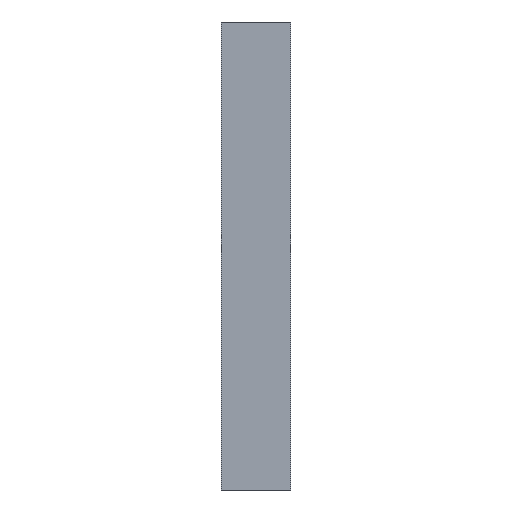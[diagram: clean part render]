
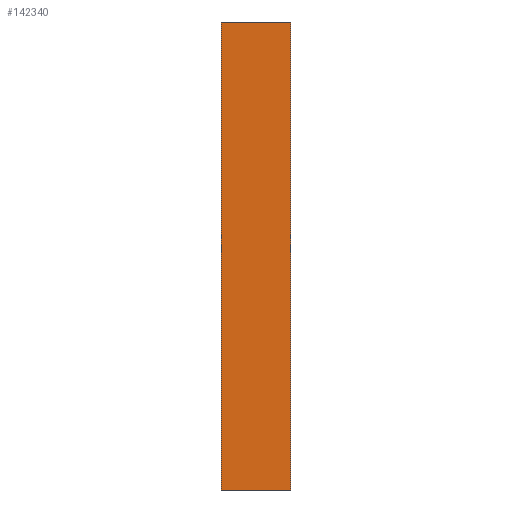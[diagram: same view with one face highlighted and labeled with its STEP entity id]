
A CAD part, front view. The second image highlights one B-rep face of the part: STEP entity #142340.
In plain terms, the highlighted planar face has unit normal (0, -1, 0).
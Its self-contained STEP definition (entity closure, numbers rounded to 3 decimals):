
#1=DIRECTION('',(1.,0.,0.));
#2=VECTOR('',#1,80.);
#3=CARTESIAN_POINT('',(-40.,94.9,69.93));
#4=LINE('',#3,#2);
#5=DIRECTION('',(0.,0.,-1.));
#6=VECTOR('',#5,540.);
#7=CARTESIAN_POINT('',(40.,94.9,69.93));
#8=LINE('',#7,#6);
#9=DIRECTION('',(-1.,0.,0.));
#10=VECTOR('',#9,80.);
#11=CARTESIAN_POINT('',(40.,94.9,-470.07));
#12=LINE('',#11,#10);
#13=DIRECTION('',(0.,0.,1.));
#14=VECTOR('',#13,540.);
#15=CARTESIAN_POINT('',(-40.,94.9,-470.07));
#16=LINE('',#15,#14);
#142191=CARTESIAN_POINT('',(-40.,94.9,69.93));
#142192=CARTESIAN_POINT('',(40.,94.9,69.93));
#142193=VERTEX_POINT('',#142191);
#142194=VERTEX_POINT('',#142192);
#142195=CARTESIAN_POINT('',(40.,94.9,-470.07));
#142196=VERTEX_POINT('',#142195);
#142197=CARTESIAN_POINT('',(-40.,94.9,-470.07));
#142198=VERTEX_POINT('',#142197);
#142325=CARTESIAN_POINT('',(0.,94.9,-0.07));
#142326=DIRECTION('',(0.,-1.,0.));
#142327=DIRECTION('',(0.,0.,-1.));
#142328=AXIS2_PLACEMENT_3D('',#142325,#142326,#142327);
#142329=PLANE('',#142328);
#142331=ORIENTED_EDGE('',*,*,#142330,.T.);
#142333=ORIENTED_EDGE('',*,*,#142332,.T.);
#142335=ORIENTED_EDGE('',*,*,#142334,.T.);
#142337=ORIENTED_EDGE('',*,*,#142336,.T.);
#142338=EDGE_LOOP('',(#142331,#142333,#142335,#142337));
#142339=FACE_OUTER_BOUND('',#142338,.F.);
#142340=ADVANCED_FACE('',(#142339),#142329,.T.);
#142330=EDGE_CURVE('',#142193,#142194,#4,.T.);
#142332=EDGE_CURVE('',#142194,#142196,#8,.T.);
#142334=EDGE_CURVE('',#142196,#142198,#12,.T.);
#142336=EDGE_CURVE('',#142198,#142193,#16,.T.);
